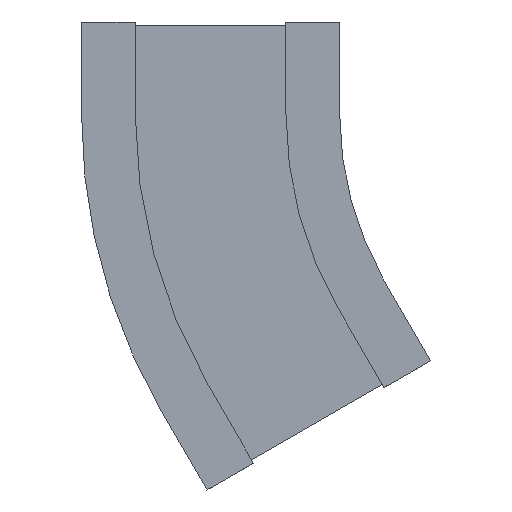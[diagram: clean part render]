
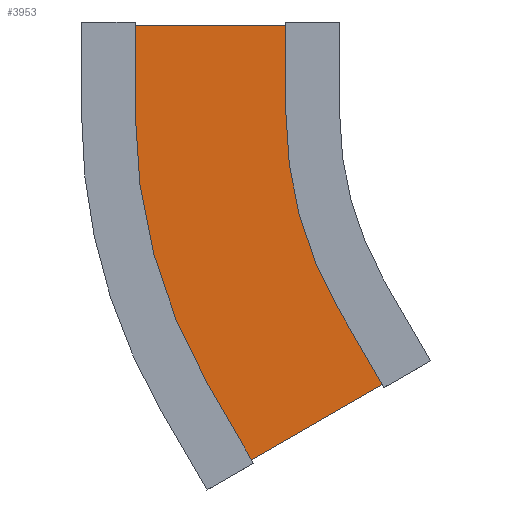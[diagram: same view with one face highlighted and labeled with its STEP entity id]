
A CAD part, front view. The second image highlights one B-rep face of the part: STEP entity #3953.
In plain terms, the highlighted planar face has unit normal (0, -1, 0).
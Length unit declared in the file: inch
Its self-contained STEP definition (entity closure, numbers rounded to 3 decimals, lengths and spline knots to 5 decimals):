
#3798=DIRECTION('',(0.,0.,1.));
#3799=VECTOR('',#3798,5.875);
#3800=CARTESIAN_POINT('',(-2.875,0.,-2.9375));
#3801=LINE('',#3800,#3799);
#3802=DIRECTION('',(1.,0.,0.));
#3803=VECTOR('',#3802,2.875);
#3804=CARTESIAN_POINT('',(-2.875,0.,2.9375));
#3805=LINE('',#3804,#3803);
#3806=CARTESIAN_POINT('',(0.,0.,15.11));
#3807=DIRECTION('',(0.,-1.,0.));
#3808=DIRECTION('',(0.,0.,-1.));
#3809=AXIS2_PLACEMENT_3D('',#3806,#3807,#3808);
#3811=DIRECTION('',(0.866,0.,0.5));
#3812=VECTOR('',#3811,2.875);
#3813=CARTESIAN_POINT('',(6.08625,0.,4.56831));
#3814=LINE('',#3813,#3812);
#3815=DIRECTION('',(0.5,0.,-0.866));
#3816=VECTOR('',#3815,5.875);
#3817=CARTESIAN_POINT('',(8.57607,0.,6.00581));
#3818=LINE('',#3817,#3816);
#3819=DIRECTION('',(-0.866,0.,-0.5));
#3820=VECTOR('',#3819,2.875);
#3821=CARTESIAN_POINT('',(11.51357,0.,0.91791));
#3822=LINE('',#3821,#3820);
#3823=CARTESIAN_POINT('',(0.,0.,15.11));
#3824=DIRECTION('',(0.,1.,0.));
#3825=DIRECTION('',(0.5,0.,-0.866));
#3826=AXIS2_PLACEMENT_3D('',#3823,#3824,#3825);
#3828=DIRECTION('',(-1.,0.,0.));
#3829=VECTOR('',#3828,2.875);
#3830=CARTESIAN_POINT('',(0.,0.,-2.9375));
#3831=LINE('',#3830,#3829);
#3898=CARTESIAN_POINT('',(-2.875,0.,-2.9375));
#3899=CARTESIAN_POINT('',(-2.875,0.,2.9375));
#3900=VERTEX_POINT('',#3898);
#3901=VERTEX_POINT('',#3899);
#3902=CARTESIAN_POINT('',(0.,0.,2.9375));
#3903=VERTEX_POINT('',#3902);
#3904=CARTESIAN_POINT('',(6.08625,0.,4.56831));
#3905=VERTEX_POINT('',#3904);
#3906=CARTESIAN_POINT('',(8.57607,0.,6.00581));
#3907=VERTEX_POINT('',#3906);
#3908=CARTESIAN_POINT('',(11.51357,0.,0.91791));
#3909=VERTEX_POINT('',#3908);
#3910=CARTESIAN_POINT('',(9.02375,0.,-0.51959));
#3911=VERTEX_POINT('',#3910);
#3912=CARTESIAN_POINT('',(0.,0.,-2.9375));
#3913=VERTEX_POINT('',#3912);
#3930=CARTESIAN_POINT('',(0.,0.,0.));
#3931=DIRECTION('',(0.,1.,0.));
#3932=DIRECTION('',(1.,0.,0.));
#3933=AXIS2_PLACEMENT_3D('',#3930,#3931,#3932);
#3934=PLANE('',#3933);
#3936=ORIENTED_EDGE('',*,*,#3935,.T.);
#3938=ORIENTED_EDGE('',*,*,#3937,.T.);
#3940=ORIENTED_EDGE('',*,*,#3939,.T.);
#3942=ORIENTED_EDGE('',*,*,#3941,.T.);
#3944=ORIENTED_EDGE('',*,*,#3943,.T.);
#3946=ORIENTED_EDGE('',*,*,#3945,.T.);
#3948=ORIENTED_EDGE('',*,*,#3947,.T.);
#3950=ORIENTED_EDGE('',*,*,#3949,.T.);
#3951=EDGE_LOOP('',(#3936,#3938,#3940,#3942,#3944,#3946,#3948,#3950));
#3952=FACE_OUTER_BOUND('',#3951,.F.);
#3953=ADVANCED_FACE('',(#3952),#3934,.F.);
#3810=CIRCLE('',#3809,12.1725);
#3827=CIRCLE('',#3826,18.0475);
#3935=EDGE_CURVE('',#3900,#3901,#3801,.T.);
#3937=EDGE_CURVE('',#3901,#3903,#3805,.T.);
#3939=EDGE_CURVE('',#3903,#3905,#3810,.T.);
#3941=EDGE_CURVE('',#3905,#3907,#3814,.T.);
#3943=EDGE_CURVE('',#3907,#3909,#3818,.T.);
#3945=EDGE_CURVE('',#3909,#3911,#3822,.T.);
#3947=EDGE_CURVE('',#3911,#3913,#3827,.T.);
#3949=EDGE_CURVE('',#3913,#3900,#3831,.T.);
